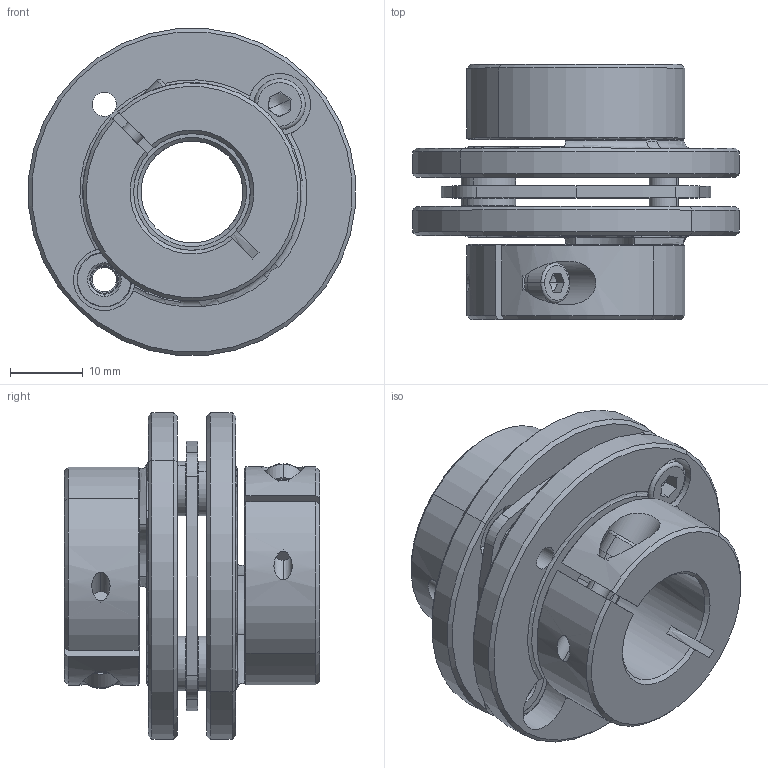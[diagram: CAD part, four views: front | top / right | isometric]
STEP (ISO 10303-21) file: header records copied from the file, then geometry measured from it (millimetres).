
FILE_DESCRIPTION (( 'STEP AP203' ), '1' );
FILE_NAME ('LE1-B-D45L35-14-16.STEP', '2021-11-01T03:20:01', ( '' ), ( '' ), 'SwSTEP 2.0', 'SolidWorks 2018', '' );
FILE_SCHEMA (( 'CONFIG_CONTROL_DESIGN' ));
Length unit declared in the file: millimetre
Products named in the file (1): LE1-B-D45L35-14-16
Bounding box: 44.83 x 35 x 44.83 mm (x, y, z)
Volume: 22938.5 mm3; surface area: 14927.7 mm2
Topology: 1 solids, 3 shells, 311 faces, 775 edges, 480 vertices
Faces by surface type: cylinder 115, plane 98, cone 82, torus 14, bspline 2
Entity records: 9750 total; most frequent: CARTESIAN_POINT 2009, DIRECTION 1741, ORIENTED_EDGE 1534, EDGE_CURVE 767, AXIS2_PLACEMENT_3D 712, VERTEX_POINT 480, CIRCLE 402, EDGE_LOOP 363
